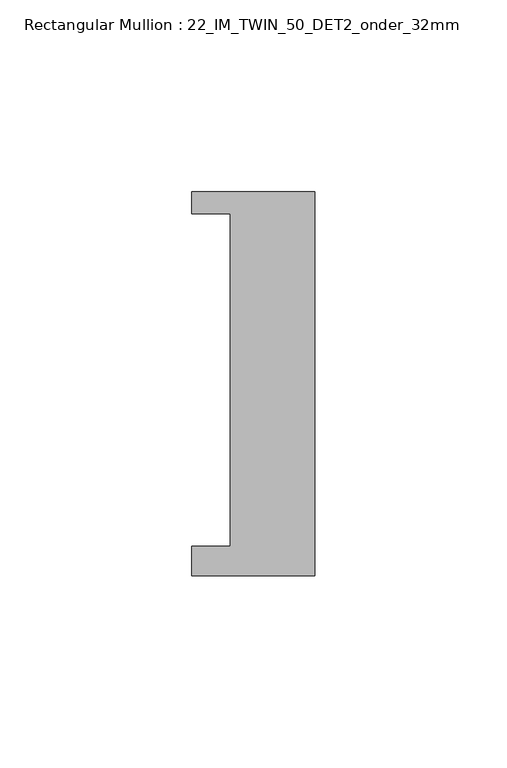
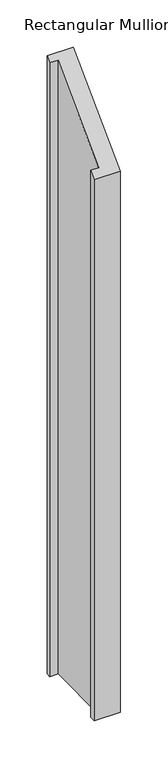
"""IFC4 building model written with IfcOpenShell, lengths in millimetres: member geometry, Rectangular Mullion : 22_IM_TWIN_50_DET2_onder_32mm."""

import ifcopenshell
import ifcopenshell.guid

model = None  # the IFC model being written
_history = None  # IfcOwnerHistory: only IFC2X3 demands one
_inside = {}  # id of a spatial element -> (the spatial element, [elements in it])
_under = {}  # id of a project, library or spatial element -> (it, [spatial elements below it])
_declared = {}  # id of a project -> (the project, [libraries it declares])
_typed = {}  # id of a type object -> (the type object, [elements of that type])
_made_of = {}  # id of a material, layer set ... -> (it, [elements and type objects made of it])


def new_model(schema):
    """Start an empty IFC model of exactly this schema.

    Asked for "IFC4X3", IfcOpenShell would pick the latest addendum, in which some entities
    have other attributes; the version numbers below select the first issue.
    IFC2X3 requires an IfcOwnerHistory on every rooted entity: one is made here for all.
    """
    global model, _history
    if schema == "IFC4X3":
        model = ifcopenshell.file(schema_version=(4, 3, 0, 0))
    else:
        model = ifcopenshell.file(schema=schema)
    _inside.clear()
    _under.clear()
    _declared.clear()
    _typed.clear()
    _made_of.clear()
    _history = None
    if model.schema == "IFC2X3":
        org = make("IfcOrganization", Name="unknown")
        user = make(
            "IfcPersonAndOrganization",
            ThePerson=make("IfcPerson", FamilyName="unknown"),
            TheOrganization=org,
        )
        app = make(
            "IfcApplication",
            ApplicationDeveloper=org,
            Version="unknown",
            ApplicationFullName="unknown",
            ApplicationIdentifier="unknown",
        )
        _history = make(
            "IfcOwnerHistory",
            OwningUser=user,
            OwningApplication=app,
            ChangeAction="ADDED",
            CreationDate=0,
        )
    return model


def make(cls, **values):
    """One entity of the class cls with the attributes given. An attribute that is None is left unset."""
    return model.create_entity(
        cls, **{name: value for name, value in values.items() if value is not None}
    )


def rooted(cls, **values):
    """An entity with a GlobalId (a new one), such as an element, a storey or a relation."""
    return make(cls, GlobalId=ifcopenshell.guid.new(), OwnerHistory=_history, **values)


def si_unit(unit_type, name, prefix=None):
    """IfcSIUnit, for example si_unit("LENGTHUNIT", "METRE", prefix="MILLI")."""
    return make("IfcSIUnit", UnitType=unit_type, Prefix=prefix, Name=name)


def assignment(units):
    """IfcUnitAssignment: the units of a project."""
    return None if units is None else make("IfcUnitAssignment", Units=units)


def point(xyz):
    """IfcCartesianPoint."""
    return None if xyz is None else make("IfcCartesianPoint", Coordinates=xyz)


def direction(xyz):
    """IfcDirection."""
    return None if xyz is None else make("IfcDirection", DirectionRatios=xyz)


def frame(location, z_axis=None, x_axis=None):
    """IfcAxis2Placement3D, a coordinate frame: its origin and axes. An axis left out is left unset."""
    return make(
        "IfcAxis2Placement3D",
        Location=point(location),
        Axis=direction(z_axis),
        RefDirection=direction(x_axis),
    )


def origin():
    """The frame at (0, 0, 0) with its axes left unset."""
    return frame((0.0, 0.0, 0.0))


def place(relative_to, where):
    """IfcLocalPlacement: puts the frame where relative to a parent placement (None: the world)."""
    return make(
        "IfcLocalPlacement", PlacementRelTo=relative_to, RelativePlacement=where
    )


def context(
    kind, dimensions, precision=None, world=None, true_north=None, identifier=None
):
    """IfcGeometricRepresentationContext, for example the 3D "Model" context."""
    return make(
        "IfcGeometricRepresentationContext",
        ContextIdentifier=identifier,
        ContextType=kind,
        CoordinateSpaceDimension=dimensions,
        Precision=precision,
        WorldCoordinateSystem=world,
        TrueNorth=true_north,
    )


def project(units=None, contexts=None):
    """IfcProject with its units and contexts."""
    return rooted(
        "IfcProject",
        Name="project",
        RepresentationContexts=contexts,
        UnitsInContext=assignment(units),
    )


def spatial(cls, under=None, at=None, **own):
    """A site, building, storey or space (cls), placed at a placement, below another one or the project."""
    s = rooted(cls, ObjectPlacement=at, **own)
    if under is not None:
        _under.setdefault(under.id(), (under, []))[1].append(s)
    return s


def faces_of(points, faces, orient=None, outer=None):
    """IfcFace entities. A face is a list of loops; a loop is a list of indices into points, from 0.

    orient and outer hold one flag for each loop. By default every Orientation is true, the
    first loop of a face is its IfcFaceOuterBound and the others are IfcFaceBound.
    """
    made = []
    for i, loops in enumerate(faces):
        bounds = []
        for j, loop in enumerate(loops):
            is_outer = j == 0 if outer is None else outer[i][j]
            bounds.append(
                make(
                    "IfcFaceOuterBound" if is_outer else "IfcFaceBound",
                    Bound=make("IfcPolyLoop", Polygon=[points[k] for k in loop]),
                    Orientation=True if orient is None else orient[i][j],
                )
            )
        made.append(make("IfcFace", Bounds=bounds))
    return made


def faceted_brep(points, faces, orient=None, outer=None, voids=None):
    """IfcFacetedBrep: a solid bounded by flat faces; with voids (closed shells), ...WithVoids."""
    shared = [point(p) for p in points]
    hull = make("IfcClosedShell", CfsFaces=faces_of(shared, faces, orient, outer))
    if voids is None:
        return make("IfcFacetedBrep", Outer=hull)
    return make(
        "IfcFacetedBrepWithVoids",
        Outer=hull,
        Voids=[
            make(cls, CfsFaces=faces_of(shared, fs, o, b)) for cls, fs, o, b in voids
        ],
    )


def shape(context_of_items, identifier, shape_type, items):
    """IfcShapeRepresentation: the items that make up one representation, for example the "Body"."""
    return make(
        "IfcShapeRepresentation",
        ContextOfItems=context_of_items,
        RepresentationIdentifier=identifier,
        RepresentationType=shape_type,
        Items=items,
    )


def source(mapping_origin, context_of_items, identifier, shape_type, items):
    """IfcRepresentationMap: a shape defined once, which mapped items show again and again."""
    return make(
        "IfcRepresentationMap",
        MappingOrigin=mapping_origin,
        MappedRepresentation=shape(context_of_items, identifier, shape_type, items),
    )


def transform(
    local_origin,
    x_axis=None,
    y_axis=None,
    z_axis=None,
    scale=None,
    scale2=None,
    scale3=None,
    uniform=True,
):
    """IfcCartesianTransformationOperator3D, or its non-uniform kind. x_axis, y_axis, z_axis: its Axis1, 2, 3."""
    if uniform:
        return make(
            "IfcCartesianTransformationOperator3D",
            Axis1=direction(x_axis),
            Axis2=direction(y_axis),
            LocalOrigin=point(local_origin),
            Scale=scale,
            Axis3=direction(z_axis),
        )
    return make(
        "IfcCartesianTransformationOperator3DnonUniform",
        Axis1=direction(x_axis),
        Axis2=direction(y_axis),
        LocalOrigin=point(local_origin),
        Scale=scale,
        Axis3=direction(z_axis),
        Scale2=scale2,
        Scale3=scale3,
    )


def mapped(mapping_source, mapping_target):
    """IfcMappedItem: shows the shape of a source again, moved by a transform."""
    return make(
        "IfcMappedItem", MappingSource=mapping_source, MappingTarget=mapping_target
    )


def made_of(thing, what):
    """Note that an element or type object is made of a material, layer set ...; save() writes the relation."""
    if what is not None:
        _made_of.setdefault(what.id(), (what, []))[1].append(thing)
    return thing


def element(
    cls,
    number,
    at=None,
    inside=None,
    cuts=None,
    type_object=None,
    material=None,
    context=None,
    identifier="Body",
    shape_type=None,
    held_by="IfcProductDefinitionShape",
    body=None,
    shapes=None,
    **own,
):
    """One element of the class cls, such as IfcWall. Its Tag is "e" and its number.

    at: its placement. inside: the storey or other place that contains it. cuts: it is an
    opening in that element (IfcRelVoidsElement). A single representation is given by context,
    identifier, shape_type and body (its items); several are given by shapes. held_by: the class
    of the entity that holds the representations. save() writes the other relations.
    """
    e = rooted(cls, Tag="e%d" % number, ObjectPlacement=at, **own)
    if body is not None:
        shapes = [shape(context, identifier, shape_type, body)]
    if shapes is not None:
        e.Representation = make(held_by, Representations=shapes)
    if inside is not None:
        _inside.setdefault(inside.id(), (inside, []))[1].append(e)
    if cuts is not None:
        rooted(
            "IfcRelVoidsElement", RelatingBuildingElement=cuts, RelatedOpeningElement=e
        )
    if type_object is not None:
        _typed.setdefault(type_object.id(), (type_object, []))[1].append(e)
    return made_of(e, material)


def aggregate(whole, parts):
    """IfcRelAggregates: a whole, such as a stair, and the parts it consists of."""
    return rooted("IfcRelAggregates", RelatingObject=whole, RelatedObjects=parts)


def save(model, path):
    """Write the relations noted so far, then the file.

    IfcRelAggregates (storeys below a building ...), IfcRelContainedInSpatialStructure (elements
    in a storey), IfcRelDefinesByType, IfcRelAssociatesMaterial and IfcRelDeclares: one each for
    every whole, place, type object, material and project.
    """
    for whole, parts in _under.values():
        aggregate(whole, parts)
    for where, things in _inside.values():
        rooted(
            "IfcRelContainedInSpatialStructure",
            RelatedElements=things,
            RelatingStructure=where,
        )
    for kind, things in _typed.values():
        rooted("IfcRelDefinesByType", RelatedObjects=things, RelatingType=kind)
    for what, things in _made_of.values():
        rooted("IfcRelAssociatesMaterial", RelatedObjects=things, RelatingMaterial=what)
    for by, libraries in _declared.values():
        rooted("IfcRelDeclares", RelatingContext=by, RelatedDefinitions=libraries)
    model.write(path)


def rectangular_mullion_22_im_twin_50_det2_onder_32mm_cb34f278(model_context):
    return source(origin(), model_context, "Body", "Brep", [
        faceted_brep([(-32.0, 50.0, -750.0), (0.0, 50.0, -750.0), (0.0, -50.0, -750.0), (-32.0, -50.0, -750.0), (-32.0, -42.3, -750.0), (-22.0, -42.3, -750.0), (-22.0, 44.3, -750.0), (-32.0, 44.3, -750.0), (-32.0, 44.3, 44.3), (-32.0, 50.0, 50.0), (-22.0, 44.3, 44.3), (-22.0, -42.3, -42.3), (-32.0, -42.3, -42.3), (-32.0, -50.0, -50.0), (0.0, -50.0, -50.0), (0.0, 50.0, 50.0)], [[[0, 1, 2, 3, 4, 5, 6, 7]], [[8, 9, 0, 7]], [[10, 8, 7, 6]], [[11, 10, 6, 5]], [[12, 11, 5, 4]], [[13, 12, 4, 3]], [[14, 13, 3, 2]], [[15, 14, 2, 1]], [[9, 15, 1, 0]], [[9, 8, 10, 11, 12, 13, 14, 15]]]),
    ])


if __name__ == "__main__":
    model = new_model("IFC4")
    model_context = context("Model", 3, world=origin())
    ifc_project = project(units=[si_unit("LENGTHUNIT", "METRE", prefix="MILLI")], contexts=[model_context])
    site = spatial("IfcSite", under=ifc_project)
    building = spatial("IfcBuilding", under=site)
    placement = place(None, origin())
    rectangular_mullion_22_im_twin_50_det2_onder_32mm_shape = rectangular_mullion_22_im_twin_50_det2_onder_32mm_cb34f278(model_context)
    element("IfcMember", 1, ObjectType="Rectangular Mullion : 22_IM_TWIN_50_DET2_onder_32mm", at=placement, inside=building, context=model_context, shape_type="MappedRepresentation", body=[
        mapped(rectangular_mullion_22_im_twin_50_det2_onder_32mm_shape, transform((0.0, 0.0, 0.0), x_axis=(1.0, 0.0, 0.0), y_axis=(0.0, 1.0, 0.0), z_axis=(0.0, 0.0, 1.0))),
    ])
    save(model, "model.ifc")
